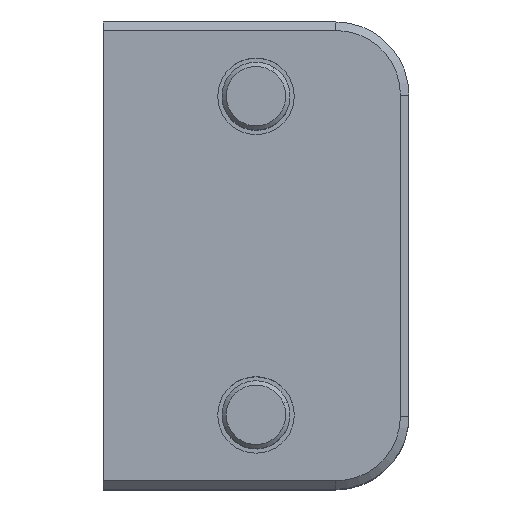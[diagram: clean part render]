
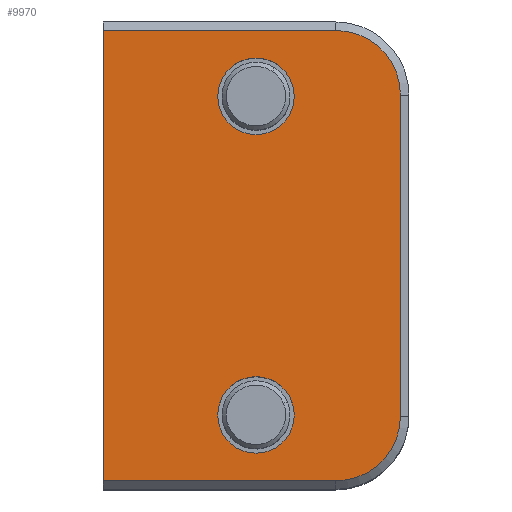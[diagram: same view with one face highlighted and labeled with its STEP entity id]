
A CAD part, top view. The second image highlights one B-rep face of the part: STEP entity #9970.
In plain terms, the highlighted planar face has unit normal (0, 0, 1).
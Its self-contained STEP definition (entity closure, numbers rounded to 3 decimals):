
#42 = EDGE_CURVE ( 'NONE', #5961, #9740, #6505, .T. ) ;
#84 = DIRECTION ( 'NONE',  ( 0., 0., 1. ) ) ;
#168 = AXIS2_PLACEMENT_3D ( 'NONE', #8543, #3512, #988 ) ;
#182 = CIRCLE ( 'NONE', #10207, 4.5 ) ;
#311 = DIRECTION ( 'NONE',  ( -1., 0., 0. ) ) ;
#988 = DIRECTION ( 'NONE',  ( 0., 1., 0. ) ) ;
#1140 = CARTESIAN_POINT ( 'NONE',  ( 17., -27.5, 20. ) ) ;
#1184 = VECTOR ( 'NONE', #6995, 1000. ) ;
#1255 = DIRECTION ( 'NONE',  ( 0., 0., -1. ) ) ;
#1312 = CARTESIAN_POINT ( 'NONE',  ( 17., 18.9, 20. ) ) ;
#1441 = VERTEX_POINT ( 'NONE', #4348 ) ;
#1489 = AXIS2_PLACEMENT_3D ( 'NONE', #3325, #9245, #8368 ) ;
#1593 = EDGE_CURVE ( 'NONE', #5762, #9272, #4518, .T. ) ;
#1733 = ORIENTED_EDGE ( 'NONE', *, *, #10209, .T. ) ;
#1747 = EDGE_LOOP ( 'NONE', ( #3980, #9411, #2715, #8180, #7511, #5643 ) ) ;
#1748 = CARTESIAN_POINT ( 'NONE',  ( 9.4, -26.5, 20. ) ) ;
#1790 = ORIENTED_EDGE ( 'NONE', *, *, #4823, .T. ) ;
#1844 = CARTESIAN_POINT ( 'NONE',  ( -18., 26.5, 20. ) ) ;
#1895 = FACE_BOUND ( 'NONE', #3766, .T. ) ;
#1966 = CARTESIAN_POINT ( 'NONE',  ( 0., 23.25, 20. ) ) ;
#2028 = CARTESIAN_POINT ( 'NONE',  ( -18., -27.5, 20. ) ) ;
#2063 = DIRECTION ( 'NONE',  ( 0., 1., 0. ) ) ;
#2145 = PLANE ( 'NONE',  #2662 ) ;
#2238 = CARTESIAN_POINT ( 'NONE',  ( 0., 18.75, 20. ) ) ;
#2270 = CARTESIAN_POINT ( 'NONE',  ( 0., -23.25, 20. ) ) ;
#2599 = CARTESIAN_POINT ( 'NONE',  ( 0., -18.75, 20. ) ) ;
#2623 = CARTESIAN_POINT ( 'NONE',  ( 0., -14.25, 20. ) ) ;
#2660 = ORIENTED_EDGE ( 'NONE', *, *, #10680, .T. ) ;
#2662 = AXIS2_PLACEMENT_3D ( 'NONE', #10518, #1255, #10631 ) ;
#2715 = ORIENTED_EDGE ( 'NONE', *, *, #5252, .T. ) ;
#2753 = CARTESIAN_POINT ( 'NONE',  ( 9.4, 18.9, 20. ) ) ;
#2858 = CIRCLE ( 'NONE', #10567, 7.6 ) ;
#2957 = CARTESIAN_POINT ( 'NONE',  ( 18., 26.5, 20. ) ) ;
#2994 = VECTOR ( 'NONE', #2063, 1000. ) ;
#3325 = CARTESIAN_POINT ( 'NONE',  ( 0., -18.75, 20. ) ) ;
#3512 = DIRECTION ( 'NONE',  ( 0., 0., -1. ) ) ;
#3749 = CARTESIAN_POINT ( 'NONE',  ( 9.4, -18.9, 20. ) ) ;
#3766 = EDGE_LOOP ( 'NONE', ( #9024, #2660 ) ) ;
#3916 = CIRCLE ( 'NONE', #9730, 4.5 ) ;
#3980 = ORIENTED_EDGE ( 'NONE', *, *, #9718, .T. ) ;
#4154 = VERTEX_POINT ( 'NONE', #10925 ) ;
#4348 = CARTESIAN_POINT ( 'NONE',  ( 17., -18.9, 20. ) ) ;
#4490 = CARTESIAN_POINT ( 'NONE',  ( 18., -26.5, 20. ) ) ;
#4518 = LINE ( 'NONE', #4490, #1184 ) ;
#4823 = EDGE_CURVE ( 'NONE', #8513, #6923, #7219, .T. ) ;
#4875 = DIRECTION ( 'NONE',  ( 0., 0., -1. ) ) ;
#5082 = DIRECTION ( 'NONE',  ( 0., 0., -1. ) ) ;
#5246 = LINE ( 'NONE', #1140, #2994 ) ;
#5252 = EDGE_CURVE ( 'NONE', #9740, #5762, #9988, .T. ) ;
#5387 = DIRECTION ( 'NONE',  ( 0., -1., 0. ) ) ;
#5628 = AXIS2_PLACEMENT_3D ( 'NONE', #3749, #9524, #9596 ) ;
#5643 = ORIENTED_EDGE ( 'NONE', *, *, #9876, .T. ) ;
#5762 = VERTEX_POINT ( 'NONE', #8646 ) ;
#5851 = EDGE_CURVE ( 'NONE', #9272, #1441, #8455, .T. ) ;
#5961 = VERTEX_POINT ( 'NONE', #9512 ) ;
#5962 = VERTEX_POINT ( 'NONE', #1966 ) ;
#6302 = CIRCLE ( 'NONE', #168, 4.5 ) ;
#6505 = LINE ( 'NONE', #2957, #6642 ) ;
#6642 = VECTOR ( 'NONE', #311, 1000. ) ;
#6923 = VERTEX_POINT ( 'NONE', #2270 ) ;
#6995 = DIRECTION ( 'NONE',  ( 1., 0., 0. ) ) ;
#7219 = CIRCLE ( 'NONE', #1489, 4.5 ) ;
#7511 = ORIENTED_EDGE ( 'NONE', *, *, #5851, .T. ) ;
#7672 = DIRECTION ( 'NONE',  ( -1., 0., 0. ) ) ;
#7695 = DIRECTION ( 'NONE',  ( 0., 1., 0. ) ) ;
#8137 = FACE_OUTER_BOUND ( 'NONE', #1747, .T. ) ;
#8180 = ORIENTED_EDGE ( 'NONE', *, *, #1593, .T. ) ;
#8368 = DIRECTION ( 'NONE',  ( 0., 1., 0. ) ) ;
#8455 = CIRCLE ( 'NONE', #5628, 7.6 ) ;
#8513 = VERTEX_POINT ( 'NONE', #2623 ) ;
#8543 = CARTESIAN_POINT ( 'NONE',  ( 0., 18.75, 20. ) ) ;
#8646 = CARTESIAN_POINT ( 'NONE',  ( -18., -26.5, 20. ) ) ;
#8907 = EDGE_LOOP ( 'NONE', ( #1790, #1733 ) ) ;
#9024 = ORIENTED_EDGE ( 'NONE', *, *, #9748, .T. ) ;
#9189 = DIRECTION ( 'NONE',  ( 0., 1., 0. ) ) ;
#9245 = DIRECTION ( 'NONE',  ( 0., 0., -1. ) ) ;
#9272 = VERTEX_POINT ( 'NONE', #1748 ) ;
#9411 = ORIENTED_EDGE ( 'NONE', *, *, #42, .T. ) ;
#9512 = CARTESIAN_POINT ( 'NONE',  ( 9.4, 26.5, 20. ) ) ;
#9524 = DIRECTION ( 'NONE',  ( 0., 0., 1. ) ) ;
#9596 = DIRECTION ( 'NONE',  ( -1., 0., 0. ) ) ;
#9708 = VECTOR ( 'NONE', #5387, 1000. ) ;
#9718 = EDGE_CURVE ( 'NONE', #10613, #5961, #2858, .T. ) ;
#9730 = AXIS2_PLACEMENT_3D ( 'NONE', #2599, #5082, #7695 ) ;
#9740 = VERTEX_POINT ( 'NONE', #1844 ) ;
#9748 = EDGE_CURVE ( 'NONE', #5962, #4154, #6302, .T. ) ;
#9876 = EDGE_CURVE ( 'NONE', #1441, #10613, #5246, .T. ) ;
#9970 = ADVANCED_FACE ( 'NONE', ( #1895, #10628, #8137 ), #2145, .F. ) ;
#9988 = LINE ( 'NONE', #2028, #9708 ) ;
#10207 = AXIS2_PLACEMENT_3D ( 'NONE', #2238, #4875, #9189 ) ;
#10209 = EDGE_CURVE ( 'NONE', #6923, #8513, #3916, .T. ) ;
#10518 = CARTESIAN_POINT ( 'NONE',  ( 18., -27.5, 20. ) ) ;
#10567 = AXIS2_PLACEMENT_3D ( 'NONE', #2753, #84, #7672 ) ;
#10613 = VERTEX_POINT ( 'NONE', #1312 ) ;
#10628 = FACE_BOUND ( 'NONE', #8907, .T. ) ;
#10631 = DIRECTION ( 'NONE',  ( -1., 0., 0. ) ) ;
#10680 = EDGE_CURVE ( 'NONE', #4154, #5962, #182, .T. ) ;
#10925 = CARTESIAN_POINT ( 'NONE',  ( 0., 14.25, 20. ) ) ;
